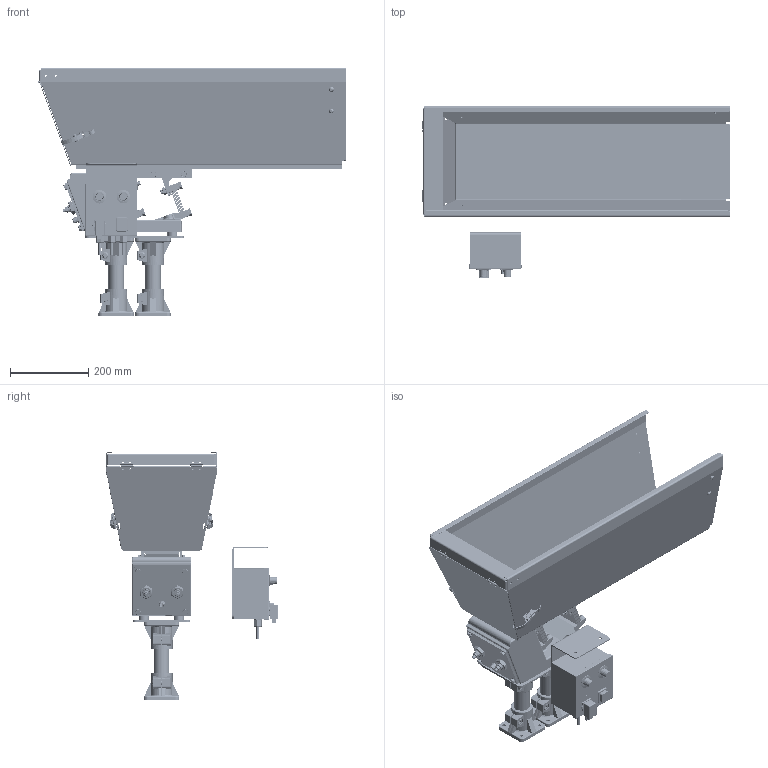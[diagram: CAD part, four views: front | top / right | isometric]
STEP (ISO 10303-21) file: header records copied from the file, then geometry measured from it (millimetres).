
FILE_DESCRIPTION (( 'STEP AP214' ), '1' );
FILE_NAME ('GM000345..step', '2026-10-16T12:49:05', ( '' ), ( '' ), 'SwSTEP 2.0', 'SolidWorks 2025', '' );
FILE_SCHEMA (( 'AUTOMOTIVE_DESIGN' ));
Length unit declared in the file: millimetre
Products named in the file (31): PD009066_002; CM000079; CM000305; PD009066; SM000080; CM000923; CM000922; PD009066_001; GM000345.; PD001337; PD001175; PD000067; CM000306_003; CM000306_001; CM000305_003; CM000925; CM000561; PD001178; CM000306; CM000305_002; PD001179; CM000934; CM000093; CM000306_002; PD001341; CM000921; CM000305_001; CM000979; CM000432; CE000026
Assembly tree (52 placements, depth 3):
  CM000923
  CM000922
  GM000345.
    CM000561  x6
    CM000979  x6
    CM000079  x6
    PD009066
      PD009066_001
      PD009066_002
    CM000306  x2
      CM000306_001
      CM000306_002
      CM000306_003
    CM000305
      CM000305_001
      CM000305_003
      CM000305_002
    CM000305
      CM000305_001
      CM000305_003
      CM000305_002
    PD001178
    PD001179
    CM000093
    PD001337
    PD001341
    PD001175
    CM000432  x4
    CE000026
    PD000067
    SM000080  x2
    CM000934  x4
  CM000925
  CM000921
Bounding box: 784.5 x 439.8 x 633.73 mm (x, y, z)
Volume: 7820883 mm3; surface area: 2473116.7 mm2
Topology: 50 solids, 116 shells, 9449 faces, 25868 edges, 16770 vertices
Faces by surface type: cylinder 6660, plane 1783, cone 610, torus 214, sphere 131, bspline 51
Entity records: 146929 total; most frequent: CARTESIAN_POINT 43142, ORIENTED_EDGE 21954, DIRECTION 20250, EDGE_CURVE 10977, AXIS2_PLACEMENT_3D 8002, VERTEX_POINT 6970, EDGE_LOOP 4799, FACE_OUTER_BOUND 4326
